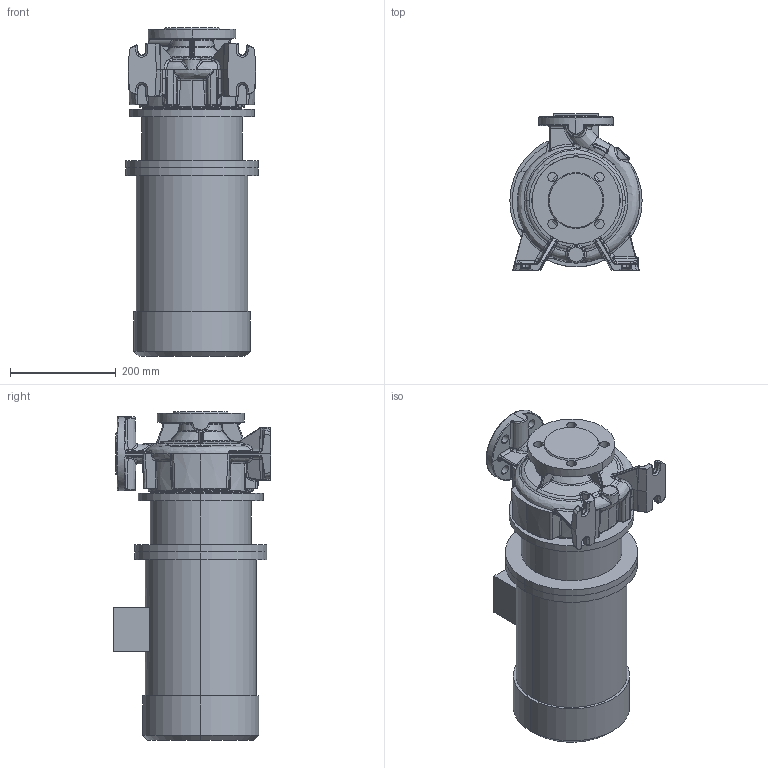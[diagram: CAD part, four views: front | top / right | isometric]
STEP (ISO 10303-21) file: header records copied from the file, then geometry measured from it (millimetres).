
FILE_DESCRIPTION (( 'STEP AP214' ), '1' );
FILE_NAME ('KRM 50-32-160.1-2-4.STEP', '2026-04-23T07:30:52', ( '' ), ( '' ), 'SwSTEP 2.0', 'SolidWorks 2016', '' );
FILE_SCHEMA (( 'AUTOMOTIVE_DESIGN' ));
Length unit declared in the file: millimetre
Products named in the file (1): KRM 50-32-160.1-2-4
Bounding box: 250 x 297 x 621.3 mm (x, y, z)
Volume: 22050359.5 mm3; surface area: 954648.9 mm2
Topology: 4 solids, 4 shells, 1060 faces, 2496 edges, 1431 vertices
Faces by surface type: bspline 527, cylinder 228, plane 151, torus 68, cone 50, sphere 36
Entity records: 103964 total; most frequent: CARTESIAN_POINT 72275, ORIENTED_EDGE 4926, DIRECTION 3236, EDGE_CURVE 2463, VERTEX_POINT 1431, AXIS2_PLACEMENT_3D 1395, EDGE_LOOP 1096, UNCERTAINTY_MEASURE_WITH_UNIT 1066
